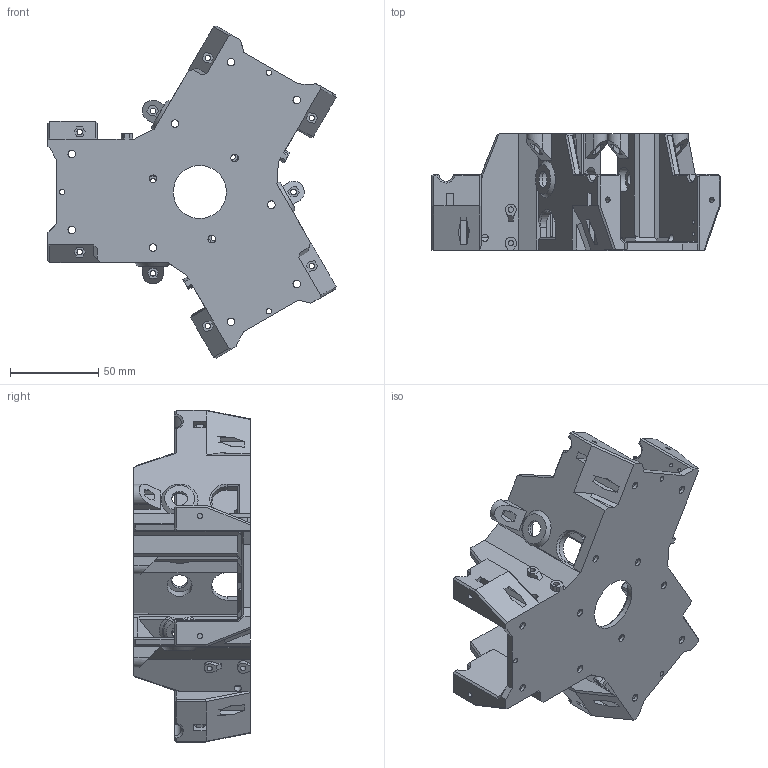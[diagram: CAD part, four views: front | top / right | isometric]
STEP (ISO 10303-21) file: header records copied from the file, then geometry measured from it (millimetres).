
FILE_DESCRIPTION(/* description */ (''),/* implementation_level */ '2;1');
FILE_NAME(/* name */ 'D:\3D печать\Мои проекты\3D Принтеры\Archy MK 2\STEP\MK3\редуктор V4.stp',/* time_stamp */ '2020-01-15T13:57:33+06:00',/* author */ ('Пользователь'),/* organization */ (''),/* preprocessor_version */ 'ST-DEVELOPER v16.5',/* originating_system */ 'Autodesk Inventor 2017',/* authorisation */ '');
FILE_SCHEMA (('AUTOMOTIVE_DESIGN { 1 0 10303 214 3 1 1 }'));
Length unit declared in the file: millimetre
Products named in the file (1): редуктор V4
Bounding box: 163.14 x 66 x 187.96 mm (x, y, z)
Volume: 251509.7 mm3; surface area: 96604.6 mm2
Topology: 1 solids, 1 shells, 758 faces, 2012 edges, 1292 vertices
Faces by surface type: plane 608, cylinder 88, cone 37, bspline 25
Full cylindrical faces by diameter (mm): 2 x6, 3 x21, 3.1 x6, 3.2 x6, 4 x3, 4.3 x12, 9 x6, 14.1 x6, 30 x1
Entity records: 24676 total; most frequent: CARTESIAN_POINT 6127, ORIENTED_EDGE 3852, DIRECTION 3541, EDGE_CURVE 1926, LINE 1591, VECTOR 1591, VERTEX_POINT 1277, AXIS2_PLACEMENT_3D 975
